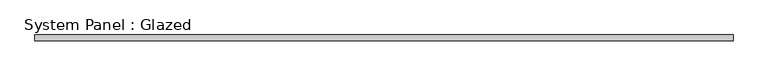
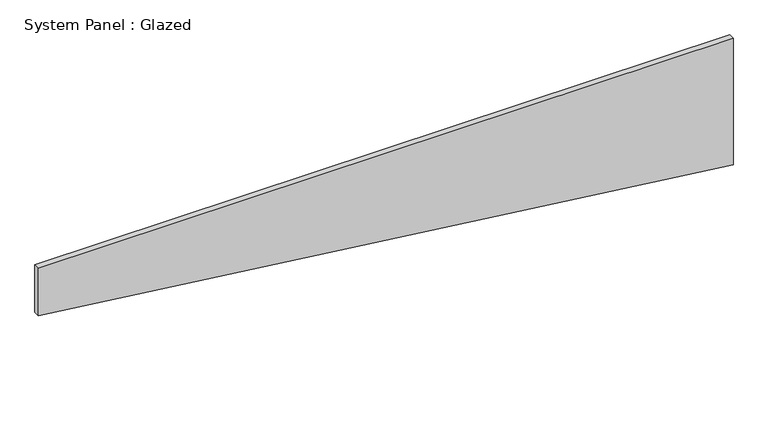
"""IFC4 building model written with IfcOpenShell, lengths in millimetres: plate geometry, System Panel : Glazed."""

from ifc_helpers import new_model, si_unit, frame, origin, place, context, project, spatial, polyline, outline, extrude, source, transform, mapped, element, save


def system_panel_glazed_139d58c7(model_context):
    return source(origin(), model_context, "Body", "SweptSolid", [
        extrude(outline(polyline([(362.317619, -1504.95), (0.0, 1504.95), (578.8343281, 1504.95), (578.8343281, -1504.95), (362.317619, -1504.95)])), frame((0.0, 19.05, 0.0), z_axis=(0.0, 1.0, 0.0), x_axis=(0.0, 0.0, 1.0)), (0.0, 0.0, 1.0), 25.4),
    ])


if __name__ == "__main__":
    model = new_model("IFC4")
    model_context = context("Model", 3, world=origin())
    ifc_project = project(units=[si_unit("LENGTHUNIT", "METRE", prefix="MILLI")], contexts=[model_context])
    site = spatial("IfcSite", under=ifc_project)
    building = spatial("IfcBuilding", under=site)
    placement = place(None, origin())
    system_panel_glazed_shape = system_panel_glazed_139d58c7(model_context)
    element("IfcPlate", 1, ObjectType="System Panel : Glazed", at=placement, inside=building, context=model_context, shape_type="MappedRepresentation", body=[
        mapped(system_panel_glazed_shape, transform((0.0, 0.0, 0.0), x_axis=(1.0, 0.0, 0.0), y_axis=(0.0, 1.0, 0.0), z_axis=(0.0, 0.0, 1.0))),
    ])
    save(model, "model.ifc")
